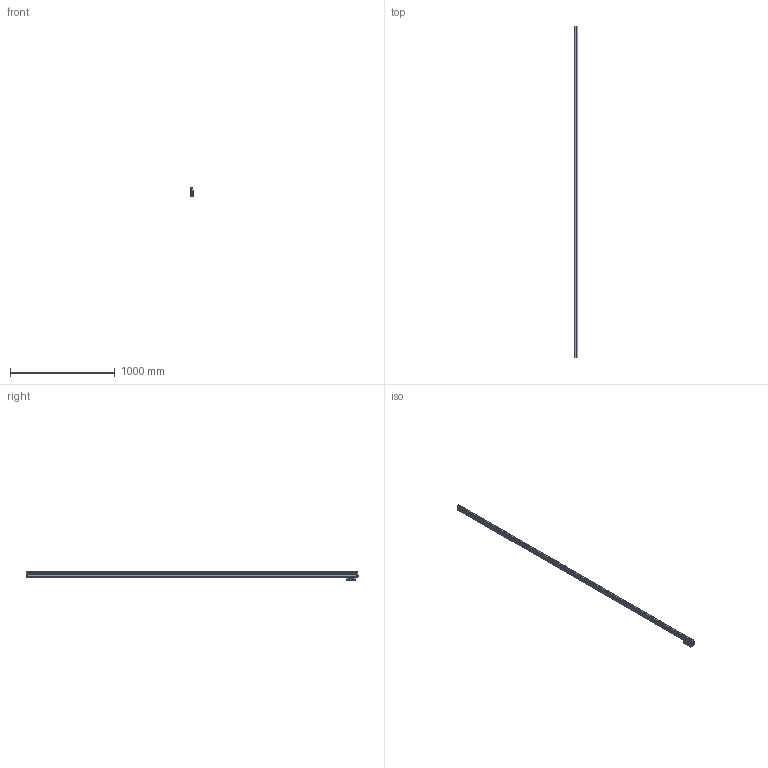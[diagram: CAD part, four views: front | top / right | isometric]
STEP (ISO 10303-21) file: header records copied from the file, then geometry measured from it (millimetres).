
FILE_DESCRIPTION(('Creo Elements/Direct Modeling STEP Export'),'2;1');
FILE_NAME('AT1123-3040.stp','2018-10-12T 9:49:40',(''),(''),'Creo Elements/Direct Modeling STEP processor for AP214 (Solid Model)','Creo Elements/Direct Modeling 18.1B 29-Sep-2012 (C) Parametric Technology GmbH','');
FILE_SCHEMA(('AUTOMOTIVE_DESIGN { 1 0 10303 214 1 1 1 1 }'));
Products named in the file (3): Scale_3040; DetectorHead; AT1123-3040
Assembly tree (2 placements, depth 2):
  AT1123-3040
    DetectorHead
    Scale_3040
Bounding box: 37 x 3168.31 x 85 mm (x, y, z)
Volume: 75071.2 mm3; surface area: 695234.9 mm2
Topology: 1 solids, 2 shells, 3926 faces, 10711 edges, 6978 vertices
Faces by surface type: plane 2233, cylinder 1433, cone 158, torus 69, bspline 13, sphere 12, extrusion 8
Entity records: 126510 total; most frequent: CARTESIAN_POINT 23778, ORIENTED_EDGE 21638, DIRECTION 20130, EDGE_CURVE 10692, VERTEX_POINT 6978, AXIS2_PLACEMENT_3D 6759, VECTOR 6612, LINE 6604
